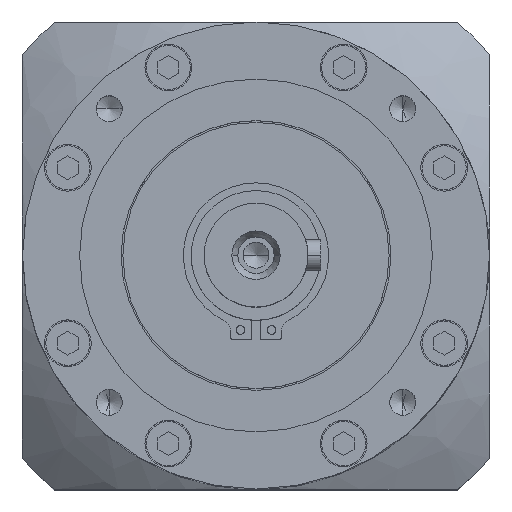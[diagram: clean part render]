
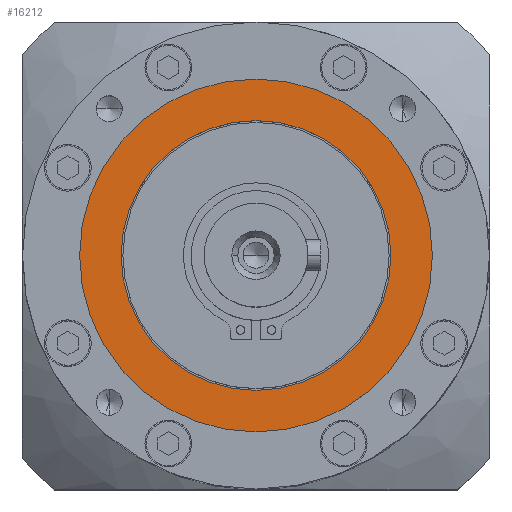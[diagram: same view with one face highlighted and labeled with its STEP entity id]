
A CAD part, top view. The second image highlights one B-rep face of the part: STEP entity #16212.
In plain terms, the highlighted planar face has unit normal (0, 0, 1).
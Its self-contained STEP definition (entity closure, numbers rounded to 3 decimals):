
#2760 = DIRECTION ( 'NONE',  ( 0., 0., 1. ) ) ;
#3135 = ORIENTED_EDGE ( 'NONE', *, *, #28282, .F. ) ;
#3242 = CIRCLE ( 'NONE', #24505, 34. ) ;
#3264 = EDGE_LOOP ( 'NONE', ( #12870, #37541 ) ) ;
#4946 = CARTESIAN_POINT ( 'NONE',  ( 34., 0., 0. ) ) ;
#6843 = CARTESIAN_POINT ( 'NONE',  ( 0., 0., 0. ) ) ;
#7019 = CIRCLE ( 'NONE', #31642, 26. ) ;
#8936 = FACE_OUTER_BOUND ( 'NONE', #3264, .T. ) ;
#9278 = CARTESIAN_POINT ( 'NONE',  ( 0., 0., 0. ) ) ;
#9307 = CARTESIAN_POINT ( 'NONE',  ( -26., 0., 0. ) ) ;
#10307 = DIRECTION ( 'NONE',  ( 1., 0., 0. ) ) ;
#11132 = EDGE_CURVE ( 'NONE', #25853, #26762, #33313, .T. ) ;
#11953 = DIRECTION ( 'NONE',  ( 0., 0., -1. ) ) ;
#12375 = PLANE ( 'NONE',  #31989 ) ;
#12405 = CARTESIAN_POINT ( 'NONE',  ( -34., 0., 0. ) ) ;
#12752 = DIRECTION ( 'NONE',  ( 1., 0., 0. ) ) ;
#12870 = ORIENTED_EDGE ( 'NONE', *, *, #11132, .F. ) ;
#13270 = CIRCLE ( 'NONE', #30593, 26. ) ;
#15868 = DIRECTION ( 'NONE',  ( 0., 0., -1. ) ) ;
#16212 = ADVANCED_FACE ( 'NONE', ( #36620, #8936 ), #12375, .F. ) ;
#17097 = ORIENTED_EDGE ( 'NONE', *, *, #32200, .F. ) ;
#17580 = VERTEX_POINT ( 'NONE', #9307 ) ;
#20326 = VERTEX_POINT ( 'NONE', #24320 ) ;
#23466 = CARTESIAN_POINT ( 'NONE',  ( 0., 0., 0. ) ) ;
#24320 = CARTESIAN_POINT ( 'NONE',  ( 26., 0., 0. ) ) ;
#24505 = AXIS2_PLACEMENT_3D ( 'NONE', #9278, #33541, #12752 ) ;
#25853 = VERTEX_POINT ( 'NONE', #4946 ) ;
#26126 = CARTESIAN_POINT ( 'NONE',  ( 0., 26., 0. ) ) ;
#26762 = VERTEX_POINT ( 'NONE', #12405 ) ;
#26951 = DIRECTION ( 'NONE',  ( 1., 0., 0. ) ) ;
#28282 = EDGE_CURVE ( 'NONE', #17580, #20326, #7019, .T. ) ;
#30593 = AXIS2_PLACEMENT_3D ( 'NONE', #6843, #31085, #10307 ) ;
#31085 = DIRECTION ( 'NONE',  ( 0., 0., 1. ) ) ;
#31642 = AXIS2_PLACEMENT_3D ( 'NONE', #23466, #2760, #26951 ) ;
#31989 = AXIS2_PLACEMENT_3D ( 'NONE', #26126, #15868, #40144 ) ;
#32200 = EDGE_CURVE ( 'NONE', #20326, #17580, #13270, .T. ) ;
#32731 = CARTESIAN_POINT ( 'NONE',  ( 0., 0., 0. ) ) ;
#33313 = CIRCLE ( 'NONE', #41428, 34. ) ;
#33541 = DIRECTION ( 'NONE',  ( 0., 0., -1. ) ) ;
#34034 = EDGE_LOOP ( 'NONE', ( #17097, #3135 ) ) ;
#36263 = DIRECTION ( 'NONE',  ( 1., 0., 0. ) ) ;
#36620 = FACE_BOUND ( 'NONE', #34034, .T. ) ;
#37541 = ORIENTED_EDGE ( 'NONE', *, *, #43028, .F. ) ;
#40144 = DIRECTION ( 'NONE',  ( -1., 0., 0. ) ) ;
#41428 = AXIS2_PLACEMENT_3D ( 'NONE', #32731, #11953, #36263 ) ;
#43028 = EDGE_CURVE ( 'NONE', #26762, #25853, #3242, .T. ) ;
